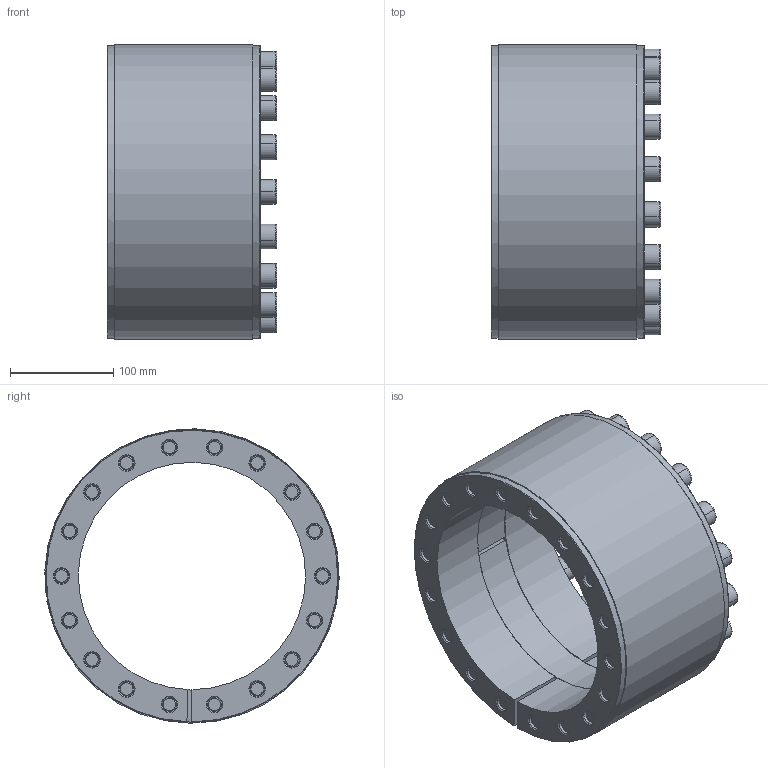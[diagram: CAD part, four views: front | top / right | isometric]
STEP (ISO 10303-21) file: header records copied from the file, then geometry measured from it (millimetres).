
FILE_DESCRIPTION((''),'2;1');
FILE_NAME('398-016-0220','2024-02-19T',('Brieden'),('Brieden'),'PRO/ENGINEER BY PARAMETRIC TECHNOLOGY CORPORATION, 2010160','PRO/ENGINEER BY PARAMETRIC TECHNOLOGY CORPORATION, 2010160','');
FILE_SCHEMA(('AUTOMOTIVE_DESIGN { 1 0 10303 214 1 1 1 1 }'));
Length unit declared in the file: millimetre
Products named in the file (1): 398-016-0220
Bounding box: 164 x 284.9 x 284.95 mm (x, y, z)
Volume: 3720289.1 mm3; surface area: 809403.4 mm2
Topology: 2 solids, 20 shells, 582 faces, 1400 edges, 896 vertices
Faces by surface type: cylinder 238, plane 194, cone 112, torus 38
Entity records: 21724 total; most frequent: DIRECTION 3272, CARTESIAN_POINT 2881, ORIENTED_EDGE 2728, PRESENTATION_STYLE_ASSIGNMENT 1428, STYLED_ITEM 1420, CURVE_STYLE 1400, EDGE_CURVE 1400, AXIS2_PLACEMENT_3D 1287
